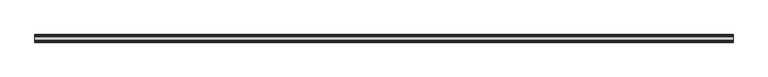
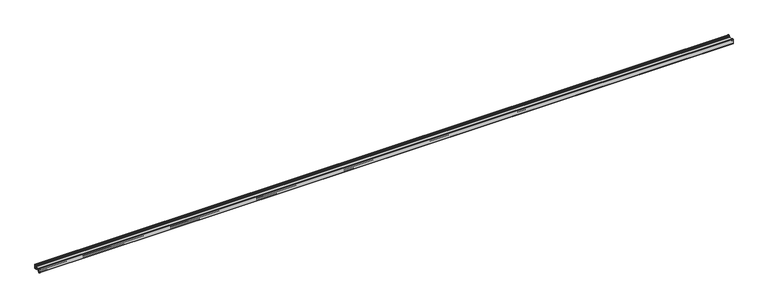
"""IFC4 building model written with IfcOpenShell, lengths in millimetres: light fixture geometry, GENILED_Осветительный шинопровод : Шинопровод однофазный 3000 Белый."""

from ifc_helpers import new_model, si_unit, point, frame, frame_2d, origin, place, context, project, spatial, polyline, circle_curve, trimmed, segment, composite_curve, outline, extrude, source, transform, mapped, element, save


def light_fixture_769b3a39(model_context):
    return source(origin(), model_context, "Body", "SweptSolid", [
        extrude(outline(composite_curve([segment(trimmed(circle_curve(frame_2d((-12.875, -0.825)), 0.325), [point((-12.875, -0.5))], [point((-12.875, -1.15))], False, "CARTESIAN"), True, "CONTINUOUS"), segment(polyline([(-12.875, -1.15), (-15.85, -1.15), (-15.85, -5.8), (-11.3843464, -5.8)]), True, "CONTINUOUS"), segment(trimmed(circle_curve(frame_2d((-9.85, -6.5319708)), 1.7), [point((-11.3843464, -5.8))], [point((-8.3156536, -5.8))], False, "CARTESIAN"), True, "CONTINUOUS"), segment(polyline([(-8.3156536, -5.8), (8.3156536, -5.8)]), True, "CONTINUOUS"), segment(trimmed(circle_curve(frame_2d((9.85, -6.5319708)), 1.7), [point((8.3156536, -5.8))], [point((11.3843464, -5.8))], False, "CARTESIAN"), True, "CONTINUOUS"), segment(polyline([(11.3843464, -5.8), (15.85, -5.8), (15.85, -1.15), (12.875, -1.15)]), True, "CONTINUOUS"), segment(trimmed(circle_curve(frame_2d((12.875, -0.825)), 0.325), [point((12.875, -1.15))], [point((12.875, -0.5))], False, "CARTESIAN"), True, "CONTINUOUS"), segment(polyline([(12.875, -0.5), (15.85, -0.5), (15.85, -0.325)]), True, "CONTINUOUS"), segment(trimmed(circle_curve(frame_2d((16.175, -0.325)), 0.325), [point((15.85, -0.325))], [point((16.5, -0.325))], False, "CARTESIAN"), True, "CONTINUOUS"), segment(polyline([(16.5, -0.325), (16.5, -19.0), (7.6, -19.0), (7.6, -17.525)]), True, "CONTINUOUS"), segment(trimmed(circle_curve(frame_2d((7.925, -17.525)), 0.325), [point((7.6, -17.525))], [point((8.25, -17.525))], False, "CARTESIAN"), True, "CONTINUOUS"), segment(polyline([(8.25, -17.525), (8.25, -18.35), (13.2, -18.35), (13.2, -16.425)]), True, "CONTINUOUS"), segment(trimmed(circle_curve(frame_2d((13.525, -16.425)), 0.325), [point((13.2, -16.425))], [point((13.85, -16.425))], False, "CARTESIAN"), True, "CONTINUOUS"), segment(polyline([(13.85, -16.425), (13.85, -18.35), (15.85, -18.35), (15.85, -6.55), (13.85, -6.55), (13.85, -8.175)]), True, "CONTINUOUS"), segment(trimmed(circle_curve(frame_2d((13.525, -8.175)), 0.325), [point((13.85, -8.175))], [point((13.2, -8.175))], False, "CARTESIAN"), True, "CONTINUOUS"), segment(polyline([(13.2, -8.175), (13.2, -6.55), (-13.2, -6.55), (-13.2, -8.175)]), True, "CONTINUOUS"), segment(trimmed(circle_curve(frame_2d((-13.525, -8.175)), 0.325), [point((-13.2, -8.175))], [point((-13.85, -8.175))], False, "CARTESIAN"), True, "CONTINUOUS"), segment(polyline([(-13.85, -8.175), (-13.85, -6.55), (-15.85, -6.55), (-15.85, -18.35), (-13.85, -18.35), (-13.85, -16.425)]), True, "CONTINUOUS"), segment(trimmed(circle_curve(frame_2d((-13.525, -16.425)), 0.325), [point((-13.85, -16.425))], [point((-13.2, -16.425))], False, "CARTESIAN"), True, "CONTINUOUS"), segment(polyline([(-13.2, -16.425), (-13.2, -18.35), (-8.0, -18.35), (-8.0, -17.525)]), True, "CONTINUOUS"), segment(trimmed(circle_curve(frame_2d((-7.675, -17.525)), 0.325), [point((-8.0, -17.525))], [point((-7.35, -17.525))], False, "CARTESIAN"), True, "CONTINUOUS"), segment(polyline([(-7.35, -17.525), (-7.35, -19.0), (-14.0, -19.0), (-14.0, -20.2), (-15.5, -20.2)]), True, "CONTINUOUS"), segment(trimmed(circle_curve(frame_2d((-15.5, -19.2)), 1.0), [point((-15.5, -20.2))], [point((-16.5, -19.2))], False, "CARTESIAN"), True, "CONTINUOUS"), segment(polyline([(-16.5, -19.2), (-16.5, -0.325)]), True, "CONTINUOUS"), segment(trimmed(circle_curve(frame_2d((-16.175, -0.325)), 0.325), [point((-16.5, -0.325))], [point((-15.85, -0.325))], False, "CARTESIAN"), True, "CONTINUOUS"), segment(polyline([(-15.85, -0.325), (-15.85, -0.5), (-12.875, -0.5)]), True, "CONTINUOUS")], self_intersect=False)), frame((0.0, 0.0, 0.0), z_axis=(1.0, 0.0, 0.0), x_axis=(0.0, 1.0, 0.0)), (0.0, 0.0, 1.0), 3000.0),
        extrude(outline(polyline([(3000.0, 9.7301861), (3000.0, 8.9301861), (0.0, 8.9301861), (0.0, 9.7301861), (3000.0, 9.7301861)])), frame((0.0, 0.0, -14.1890619), z_axis=(0.0, 0.0, 1.0), x_axis=(1.0, 0.0, 0.0)), (0.0, 0.0, 1.0), 3.2),
        extrude(outline(polyline([(3000.0, -8.9301861), (3000.0, -9.7301861), (0.0, -9.7301861), (0.0, -8.9301861), (3000.0, -8.9301861)])), frame((0.0, 0.0, -14.1890619), z_axis=(0.0, 0.0, 1.0), x_axis=(1.0, 0.0, 0.0)), (0.0, 0.0, 1.0), 3.2),
        extrude(outline(polyline([(7.8801861, -9.6390619), (14.6301861, -9.6390619), (14.6301861, -7.1890619), (15.8301861, -7.1890619), (15.8301861, -10.9390619), (11.2801861, -10.9390619), (11.2801861, -14.2390619), (15.8301861, -14.2390619), (15.8301861, -17.9890619), (14.6301861, -17.9890619), (14.6301861, -15.5390619), (7.8801861, -15.5390619), (7.8801861, -13.4390619), (8.9801861, -13.4390619), (8.9801861, -14.3890619), (9.9801861, -14.3890619), (9.9801861, -10.7890619), (8.9801861, -10.7890619), (8.9801861, -11.7390619), (7.8801861, -11.7390619), (7.8801861, -9.6390619)])), frame((0.0, 0.0, 0.0), z_axis=(1.0, 0.0, 0.0), x_axis=(0.0, 1.0, 0.0)), (0.0, 0.0, 1.0), 3000.0),
        extrude(outline(polyline([(-7.6301861, -9.6390619), (-7.6301861, -11.7390619), (-8.7301861, -11.7390619), (-8.7301861, -10.7890619), (-9.7301861, -10.7890619), (-9.7301861, -14.3890619), (-8.7301861, -14.3890619), (-8.7301861, -13.4390619), (-7.6301861, -13.4390619), (-7.6301861, -15.5390619), (-14.6301861, -15.5390619), (-14.6301861, -17.9890619), (-15.8301861, -17.9890619), (-15.8301861, -14.2390619), (-11.0301861, -14.2390619), (-11.0301861, -10.9390619), (-15.8301861, -10.9390619), (-15.8301861, -7.1890619), (-14.6301861, -7.1890619), (-14.6301861, -9.6390619), (-7.6301861, -9.6390619)])), frame((0.0, 0.0, 0.0), z_axis=(1.0, 0.0, 0.0), x_axis=(0.0, 1.0, 0.0)), (0.0, 0.0, 1.0), 3000.0),
    ])


if __name__ == "__main__":
    model = new_model("IFC4")
    model_context = context("Model", 3, world=origin())
    ifc_project = project(units=[si_unit("LENGTHUNIT", "METRE", prefix="MILLI")], contexts=[model_context])
    site = spatial("IfcSite", under=ifc_project)
    building = spatial("IfcBuilding", under=site)
    placement = place(None, origin())
    light_fixture_shape = light_fixture_769b3a39(model_context)
    element("IfcLightFixture", 1, ObjectType="GENILED_Осветительный шинопровод : Шинопровод однофазный 3000 Белый", at=placement, inside=building, context=model_context, shape_type="MappedRepresentation", body=[
        mapped(light_fixture_shape, transform((0.0, 0.0, 0.0), x_axis=(1.0, 0.0, 0.0), y_axis=(0.0, 1.0, 0.0), z_axis=(0.0, 0.0, 1.0))),
    ])
    save(model, "model.ifc")
